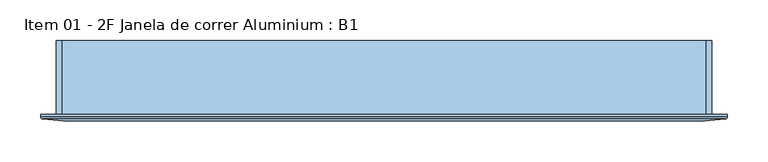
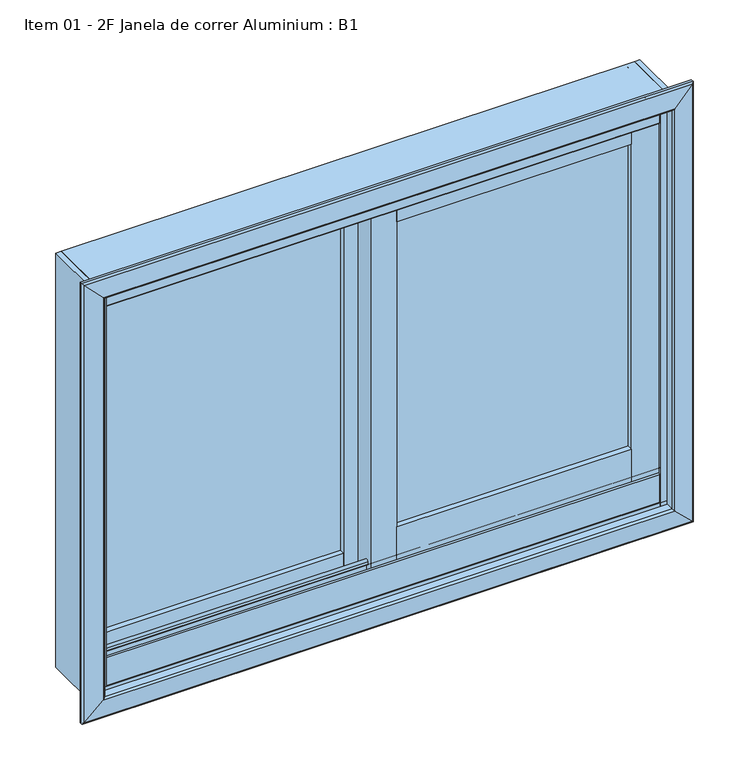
"""IFC4 building model written with IfcOpenShell, lengths in millimetres: window geometry, Item 01 - 2F Janela de correr Aluminium : B1."""

from ifc_helpers import new_model, si_unit, frame, origin, place, context, project, spatial, polyline, circle_curve, ellipse_curve, outline, extrude, source, transform, mapped, element, save
from ifc_brep_helpers import plane_surface, cylinder_surface, revolved_surface, advanced_brep


def item_01_2f_janela_de_correr_aluminium_b1_a633d3a6(model_context):
    return source(origin(), model_context, "Body", "SolidModel", [
        extrude(outline(polyline([(-27.3998339, -10.3), (-27.3998339, -14.3), (-354.750983, -14.3), (-354.750983, -10.3), (-27.3998339, -10.3)])), frame((0.0, 0.0, 857.0), z_axis=(0.0, 0.0, 1.0), x_axis=(1.0, 0.0, 0.0)), (0.0, 0.0, 1.0), 480.5),
        extrude(outline(polyline([(27.2998339, -45.9), (27.2998339, -41.9), (348.868646, -41.9), (348.868646, -45.9), (27.2998339, -45.9)])), frame((0.0, 0.0, 895.5), z_axis=(0.0, 0.0, 1.0), x_axis=(1.0, 0.0, 0.0)), (0.0, 0.0, 1.0), 442.0),
        extrude(outline(polyline([(348.868646, -33.9), (348.868646, -53.9), (27.2998339, -53.9), (27.2998339, -33.9), (348.868646, -33.9)])), frame((0.0, 0.0, 847.9996573), z_axis=(0.0, 0.0, 1.0), x_axis=(1.0, 0.0, 0.0)), (0.0, 0.0, 1.0), 47.5003427),
        extrude(outline(polyline([(348.868646, -33.9), (348.868646, -53.9), (27.2998339, -53.9), (27.2998339, -33.9), (348.868646, -33.9)])), frame((0.0, 0.0, 1337.4996573), z_axis=(0.0, 0.0, 1.0), x_axis=(1.0, 0.0, 0.0)), (0.0, 0.0, 1.0), 34.5),
        extrude(outline(polyline([(-27.3998339, -2.3), (-27.3998339, -22.3), (-354.750983, -22.3), (-354.750983, -2.3), (-27.3998339, -2.3)])), frame((0.0, 0.0, 821.0), z_axis=(0.0, 0.0, 1.0), x_axis=(1.0, 0.0, 0.0)), (0.0, 0.0, 1.0), 36.0),
        extrude(outline(polyline([(-27.3998339, -2.3), (-27.3998339, -22.3), (-354.750983, -22.3), (-354.750983, -2.3), (-27.3998339, -2.3)])), frame((0.0, 0.0, 1337.5), z_axis=(0.0, 0.0, 1.0), x_axis=(1.0, 0.0, 0.0)), (0.0, 0.0, 1.0), 34.5),
        extrude(outline(polyline([(-354.750983, -22.3), (-393.0, -22.3), (-393.0, -2.3), (-354.750983, -2.3), (-354.750983, -22.3)])), frame((0.0, 0.0, 821.0), z_axis=(0.0, 0.0, 1.0), x_axis=(1.0, 0.0, 0.0)), (0.0, 0.0, 1.0), 551.0),
        extrude(outline(polyline([(-27.3998339, -22.3), (-27.3998339, -2.3), (7.6001661, -2.3), (7.6001661, -33.9), (27.2998339, -33.9), (27.2998339, -53.9), (-7.6001661, -53.9), (-7.6001661, -22.3), (-27.3998339, -22.3)])), frame((0.0, 0.0, 821.0), z_axis=(0.0, 0.0, 1.0), x_axis=(1.0, 0.0, 0.0)), (0.0, 0.0, 1.0), 551.0),
        extrude(outline(polyline([(393.0, -53.9), (348.868646, -53.9), (348.868646, -33.9), (393.0, -33.9), (393.0, -53.9)])), frame((0.0, 0.0, 821.0), z_axis=(0.0, 0.0, 1.0), x_axis=(1.0, 0.0, 0.0)), (0.0, 0.0, 1.0), 551.0),
        advanced_brep(
        [(-392.5998339, 8.5620965, 810.2470077), (-392.5998339, 8.5620965, 801.4000436), (-392.5998339, 13.600001, 801.4000436), (-392.5998339, 13.600001, 807.4000364), (-392.5998339, 14.9999993, 807.4000364), (-392.5998339, 15.0, 800.0), (-392.5998339, -75.0, 800.0), (-392.5998339, -75.0, 807.4000364), (-392.5998339, -73.6000017, 807.4000364), (-392.5998339, -73.6000017, 801.3999983), (-392.5998339, -68.6000077, 801.3999983), (-392.5998339, -68.6000077, 815.5000406), (-392.5998339, -66.9001002, 815.5000406), (-392.5998339, -66.9002002, 855.4959852), (-392.5998339, -63.9002108, 855.4999745), (-392.5998339, -63.9002039, 852.9999952), (-392.5998339, -65.5001025, 852.0762974), (-392.5998339, -65.4999102, 840.5017467), (-392.5998339, -64.5522917, 839.4937615), (-392.5998339, -42.5000392, 838.337999), (-392.5998339, -42.5000392, 852.496362), (-392.5998339, -44.7000484, 852.496362), (-392.5998339, -44.7000484, 848.6999865), (-392.5998339, -46.1007067, 848.6999865), (-392.5998339, -46.1007067, 852.4947997), (-392.5998339, -41.099933, 852.4947997), (-392.5998339, -41.099933, 838.2646991), (-392.5998339, -39.464205, 838.1789418), (-392.5998339, -35.731283, 834.861102), (-392.5998339, -32.3590937, 815.7367048), (-392.5998339, -29.9346709, 813.5917613), (-392.5998339, -14.4999651, 812.7828298), (-392.5998339, -14.4999651, 825.4891381), (-392.5998339, -9.4999947, 825.4999956), (-392.5998339, -9.4999711, 821.7000191), (-392.5998339, -10.8999694, 821.7000191), (-392.5998339, -10.8999694, 825.4963945), (-392.5998339, -13.0999825, 825.4963945), (-392.5998339, -13.0999825, 812.7095299), (-392.5998339, 7.2297593, 811.6448774), (392.5998339, 8.5620965, 810.2470077), (392.5998339, 8.5620965, 801.4000436), (392.5998339, 13.600001, 801.4000436), (392.5998339, 13.600001, 807.4000364), (392.5998339, 14.9999993, 807.4000364), (392.5998339, 15.0, 800.0), (392.5998339, -75.0, 800.0), (392.5998339, -75.0, 807.4000364), (392.5998339, -73.6000017, 807.4000364), (392.5998339, -73.6000017, 801.3999983), (392.5998339, -68.6000077, 801.3999983), (392.5998339, -68.6000077, 815.5000406), (392.5998339, -66.9001002, 815.5000406), (392.5998339, -66.9002002, 855.4959852), (392.5998339, -63.9002108, 855.4999745), (392.5998339, -63.9002039, 852.9999952), (392.5998339, -65.5001025, 852.0762974), (392.5998339, -65.4999102, 840.5017467), (392.5998339, -64.5522917, 839.4937615), (392.5998339, -42.5000392, 838.337999), (392.5998339, -42.5000392, 852.496362), (392.5998339, -44.7000484, 852.496362), (392.5998339, -44.7000484, 848.6999865), (392.5998339, -46.1007067, 848.6999865), (392.5998339, -46.1007067, 852.4947997), (392.5998339, -41.099933, 852.4947997), (392.5998339, -41.099933, 838.2646991), (392.5998339, -39.464205, 838.1789418), (392.5998339, -35.731283, 834.861102), (392.5998339, -32.3590937, 815.7367048), (392.5998339, -29.9346709, 813.5917613), (392.5998339, -14.4999651, 812.7828298), (392.5998339, -14.4999651, 825.4891381), (392.5998339, -9.4999947, 825.4999956), (392.5998339, -9.4999711, 821.7000191), (392.5998339, -10.8999694, 821.7000191), (392.5998339, -10.8999694, 825.4963945), (392.5998339, -13.0999825, 825.4963945), (392.5998339, -13.0999825, 812.7095299), (392.5998339, 7.2297593, 811.6448774)],
        [
            (0, 1),
            (1, 2),
            (2, 3),
            (3, 4),
            (4, 5),
            (5, 6),
            (6, 7),
            (7, 8),
            (8, 9),
            (9, 10),
            (10, 11),
            (11, 12),
            (12, 13),
            (13, 14, circle_curve(frame((-392.5998339, -65.4002082, 855.4999743), z_axis=(-1.0, 0.0, 0.0), x_axis=(0.0, 0.0, 1.0)), 1.4999974)),
            (14, 15),
            (15, 16),
            (16, 17),
            (17, 18, circle_curve(frame((-392.5998339, -64.4999552, 840.4923898), z_axis=(1.0, 0.0, 0.0), x_axis=(0.0, 0.0, 1.0)), 0.9999988)),
            (18, 19),
            (19, 20),
            (20, 21, circle_curve(frame((-392.5998339, -43.6000438, 852.496362), z_axis=(1.0, 0.0, 0.0), x_axis=(0.0, 0.0, 1.0)), 1.1000046)),
            (21, 22),
            (22, 23, circle_curve(frame((-392.5998339, -45.4003775, 848.6999865), z_axis=(-1.0, 0.0, 0.0), x_axis=(0.0, 0.0, 1.0)), 0.7003292)),
            (23, 24),
            (24, 25, circle_curve(frame((-392.5998339, -43.6003199, 852.4947997), z_axis=(-1.0, 0.0, 0.0), x_axis=(0.0, 0.0, 1.0)), 2.5003869)),
            (25, 26),
            (26, 27),
            (27, 28, circle_curve(frame((-392.5998339, -39.6736275, 834.1844326), z_axis=(-1.0, 0.0, 0.0), x_axis=(0.0, 0.0, 1.0)), 3.9999952)),
            (28, 29),
            (29, 30, circle_curve(frame((-392.5998339, -29.7985976, 816.188195), z_axis=(1.0, 0.0, 0.0), x_axis=(0.0, 0.0, 1.0)), 2.5999969)),
            (30, 31),
            (31, 32),
            (32, 33, circle_curve(frame((-392.5998339, -11.9999917, 825.4999955), z_axis=(-1.0, 0.0, 0.0), x_axis=(0.0, 0.0, 1.0)), 2.499997)),
            (33, 34),
            (34, 35, circle_curve(frame((-392.5998339, -10.1999703, 821.7000191), z_axis=(-1.0, 0.0, 0.0), x_axis=(0.0, 0.0, 1.0)), 0.6999992)),
            (35, 36),
            (36, 37, circle_curve(frame((-392.5998339, -11.9999759, 825.4963945), z_axis=(1.0, 0.0, 0.0), x_axis=(0.0, 0.0, 1.0)), 1.1000065)),
            (37, 38),
            (38, 39),
            (39, 0, circle_curve(frame((-392.5998339, 7.1626152, 810.2470077), z_axis=(-1.0, 0.0, 0.0), x_axis=(0.0, 0.0, 1.0)), 1.3994814)),
            (0, 40),
            (40, 41),
            (41, 1),
            (41, 42),
            (42, 2),
            (42, 43),
            (43, 3),
            (43, 44),
            (44, 4),
            (44, 45),
            (45, 5),
            (45, 46),
            (46, 6),
            (46, 47),
            (47, 7),
            (47, 48),
            (48, 8),
            (48, 49),
            (49, 9),
            (49, 50),
            (50, 10),
            (50, 51),
            (51, 11),
            (51, 52),
            (52, 12),
            (52, 53),
            (53, 13),
            (53, 54, circle_curve(frame((392.5998339, -65.4002082, 855.4999743), z_axis=(-1.0, 0.0, 0.0), x_axis=(0.0, 0.0, 1.0)), 1.4999974)),
            (54, 14),
            (54, 55),
            (55, 15),
            (55, 56),
            (56, 16),
            (56, 57),
            (57, 17),
            (57, 58, circle_curve(frame((392.5998339, -64.4999552, 840.4923898), z_axis=(1.0, 0.0, 0.0), x_axis=(0.0, 0.0, 1.0)), 0.9999988)),
            (58, 18),
            (58, 59),
            (59, 19),
            (59, 60),
            (60, 20),
            (60, 61, circle_curve(frame((392.5998339, -43.6000438, 852.496362), z_axis=(1.0, 0.0, 0.0), x_axis=(0.0, 0.0, 1.0)), 1.1000046)),
            (61, 21),
            (61, 62),
            (62, 22),
            (62, 63, circle_curve(frame((392.5998339, -45.4003775, 848.6999865), z_axis=(-1.0, 0.0, 0.0), x_axis=(0.0, 0.0, 1.0)), 0.7003292)),
            (63, 23),
            (63, 64),
            (64, 24),
            (64, 65, circle_curve(frame((392.5998339, -43.6003199, 852.4947997), z_axis=(-1.0, 0.0, 0.0), x_axis=(0.0, 0.0, 1.0)), 2.5003869)),
            (65, 25),
            (65, 66),
            (66, 26),
            (66, 67),
            (67, 27),
            (67, 68, circle_curve(frame((392.5998339, -39.6736275, 834.1844326), z_axis=(-1.0, 0.0, 0.0), x_axis=(0.0, 0.0, 1.0)), 3.9999952)),
            (68, 28),
            (68, 69),
            (69, 29),
            (69, 70, circle_curve(frame((392.5998339, -29.7985976, 816.188195), z_axis=(1.0, 0.0, 0.0), x_axis=(0.0, 0.0, 1.0)), 2.5999969)),
            (70, 30),
            (70, 71),
            (71, 31),
            (71, 72),
            (72, 32),
            (72, 73, circle_curve(frame((392.5998339, -11.9999917, 825.4999955), z_axis=(-1.0, 0.0, 0.0), x_axis=(0.0, 0.0, 1.0)), 2.499997)),
            (73, 33),
            (73, 74),
            (74, 34),
            (74, 75, circle_curve(frame((392.5998339, -10.1999703, 821.7000191), z_axis=(-1.0, 0.0, 0.0), x_axis=(0.0, 0.0, 1.0)), 0.6999992)),
            (75, 35),
            (75, 76),
            (76, 36),
            (76, 77, circle_curve(frame((392.5998339, -11.9999759, 825.4963945), z_axis=(1.0, 0.0, 0.0), x_axis=(0.0, 0.0, 1.0)), 1.1000065)),
            (77, 37),
            (77, 78),
            (78, 38),
            (78, 79),
            (79, 39),
            (79, 40, circle_curve(frame((392.5998339, 7.1626152, 810.2470077), z_axis=(-1.0, 0.0, 0.0), x_axis=(0.0, 0.0, 1.0)), 1.3994814)),
        ],
        [
            plane_surface(frame((-392.5998339, -75.0, 1400.0), z_axis=(-1.0, 0.0, 0.0), x_axis=(0.0, -1.0, 0.0))),
            plane_surface(frame((-392.5998339, 8.5620965, 810.2470077), z_axis=(0.0, 1.0, 0.0), x_axis=(1.0, 0.0, 0.0))),
            plane_surface(frame((-392.5998339, 8.5620965, 801.4000436), z_axis=(0.0, 0.0, 1.0), x_axis=(1.0, 0.0, 0.0))),
            plane_surface(frame((-392.5998339, 13.600001, 801.4000436), z_axis=(0.0, -1.0, 0.0), x_axis=(1.0, 0.0, 0.0))),
            plane_surface(frame((-392.5998339, 13.600001, 807.4000364), z_axis=(0.0, 0.0, 1.0), x_axis=(1.0, 0.0, 0.0))),
            plane_surface(frame((-392.5998339, 14.9999993, 807.4000364), z_axis=(0.0, 0.999999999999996, 9.01305508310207e-08), x_axis=(1.0, 0.0, 0.0))),
            plane_surface(frame((-392.5998339, 15.0, 800.0), z_axis=(0.0, 0.0, -1.0), x_axis=(1.0, 0.0, 0.0))),
            plane_surface(frame((-392.5998339, -75.0, 800.0), z_axis=(0.0, -1.0, 0.0), x_axis=(1.0, 0.0, 0.0))),
            plane_surface(frame((-392.5998339, -75.0, 807.4000364), z_axis=(0.0, 0.0, 1.0), x_axis=(1.0, 0.0, 0.0))),
            plane_surface(frame((-392.5998339, -73.6000017, 807.4000364), z_axis=(0.0, 1.0, 0.0), x_axis=(1.0, 0.0, 0.0))),
            plane_surface(frame((-392.5998339, -73.6000017, 801.3999983), z_axis=(0.0, 0.0, 1.0), x_axis=(1.0, 0.0, 0.0))),
            plane_surface(frame((-392.5998339, -68.6000077, 801.3999983), z_axis=(0.0, -1.0, 0.0), x_axis=(1.0, 0.0, 0.0))),
            plane_surface(frame((-392.5998339, -68.6000077, 815.5000406), z_axis=(0.0, 0.0, 1.0), x_axis=(1.0, 0.0, 0.0))),
            plane_surface(frame((-392.5998339, -66.9001002, 815.5000406), z_axis=(0.0, -0.999999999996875, -2.500000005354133e-06), x_axis=(1.0, 0.0, 0.0))),
            cylinder_surface(frame((-392.5998339, -65.4002082, 855.4999743), z_axis=(-1.0, 0.0, 0.0), x_axis=(0.0, 0.0, 1.0)), 1.4999974),
            plane_surface(frame((-392.5998339, -63.9002039, 855.4999927), z_axis=(0.0, 1.0, 0.0), x_axis=(1.0, 0.0, 0.0))),
            plane_surface(frame((-392.5998339, -63.9002039, 852.9999952), z_axis=(0.0, 0.4999983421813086, -0.8660263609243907), x_axis=(1.0, 0.0, 0.0))),
            plane_surface(frame((-392.5998339, -65.5001025, 852.0762974), z_axis=(0.0, 0.9999999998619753, 1.661473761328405e-05), x_axis=(1.0, 0.0, 0.0))),
            revolved_surface(polyline([(392.5998339, -64.4999552, 841.4923885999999), (-392.5998339, -64.4999552, 841.4923885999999)]), (-392.5998339, -64.4999552, 840.4923898), (1.0, 0.0, 0.0)),
            plane_surface(frame((-392.5998339, -64.5523119, 839.493712), z_axis=(0.0, 0.05233606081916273, 0.998629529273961), x_axis=(1.0, 0.0, 0.0))),
            plane_surface(frame((-392.5998339, -42.5000392, 838.337999), z_axis=(0.0, -1.0, 0.0), x_axis=(1.0, 0.0, 0.0))),
            revolved_surface(polyline([(392.5998339, -43.6000438, 853.5963666), (-392.5998339, -43.6000438, 853.5963666)]), (-392.5998339, -43.6000438, 852.496362), (1.0, 0.0, 0.0)),
            plane_surface(frame((-392.5998339, -44.7000484, 852.496362), z_axis=(0.0, 1.0, 0.0), x_axis=(1.0, 0.0, 0.0))),
            cylinder_surface(frame((-392.5998339, -45.4003775, 848.6999865), z_axis=(-1.0, 0.0, 0.0), x_axis=(0.0, 0.0, 1.0)), 0.7003292),
            plane_surface(frame((-392.5998339, -46.1007067, 848.6999865), z_axis=(0.0, -1.0, 0.0), x_axis=(1.0, 0.0, 0.0))),
            cylinder_surface(frame((-392.5998339, -43.6003199, 852.4947997), z_axis=(-1.0, 0.0, 0.0), x_axis=(0.0, 0.0, 1.0)), 2.5003869),
            plane_surface(frame((-392.5998339, -41.099933, 852.4947997), z_axis=(0.0, 1.0, 0.0), x_axis=(1.0, 0.0, 0.0))),
            plane_surface(frame((-392.5998339, -41.099933, 838.2646991), z_axis=(0.0, 0.05235569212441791, 0.998628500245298), x_axis=(1.0, 0.0, 0.0))),
            cylinder_surface(frame((-392.5998339, -39.6736275, 834.1844326), z_axis=(-1.0, 0.0, 0.0), x_axis=(0.0, 0.0, 1.0)), 3.9999952),
            plane_surface(frame((-392.5998339, -35.731283, 834.861102), z_axis=(0.0, 0.9848073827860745, 0.1736502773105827), x_axis=(1.0, 0.0, 0.0))),
            revolved_surface(polyline([(392.5998339, -29.7985976, 818.7881918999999), (-392.5998339, -29.7985976, 818.7881918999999)]), (-392.5998339, -29.7985976, 816.188195), (1.0, 0.0, 0.0)),
            plane_surface(frame((-392.5998339, -29.9346464, 813.5917288), z_axis=(0.0, 0.052336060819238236, 0.9986295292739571), x_axis=(1.0, 0.0, 0.0))),
            plane_surface(frame((-392.5998339, -14.4999651, 812.7828298), z_axis=(0.0, -1.0, 0.0), x_axis=(1.0, 0.0, 0.0))),
            cylinder_surface(frame((-392.5998339, -11.9999917, 825.4999955), z_axis=(-1.0, 0.0, 0.0), x_axis=(0.0, 0.0, 1.0)), 2.499997),
            plane_surface(frame((-392.5998339, -9.4999711, 825.5000145), z_axis=(0.0, 1.0, 0.0), x_axis=(1.0, 0.0, 0.0))),
            cylinder_surface(frame((-392.5998339, -10.1999703, 821.7000191), z_axis=(-1.0, 0.0, 0.0), x_axis=(0.0, 0.0, 1.0)), 0.6999992),
            plane_surface(frame((-392.5998339, -10.8999694, 821.7000191), z_axis=(0.0, -1.0, 0.0), x_axis=(1.0, 0.0, 0.0))),
            revolved_surface(polyline([(392.5998339, -11.9999759, 826.5964009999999), (-392.5998339, -11.9999759, 826.5964009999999)]), (-392.5998339, -11.9999759, 825.4963945), (1.0, 0.0, 0.0)),
            plane_surface(frame((-392.5998339, -13.0999825, 825.4963945), z_axis=(0.0, 1.0, 0.0), x_axis=(1.0, 0.0, 0.0))),
            plane_surface(frame((-392.5998339, -13.0999825, 812.7095299), z_axis=(0.0, 0.052297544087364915, 0.9986315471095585), x_axis=(1.0, 0.0, 0.0))),
            cylinder_surface(frame((-392.5998339, 7.1626152, 810.2470077), z_axis=(-1.0, 0.0, 0.0), x_axis=(0.0, 0.0, 1.0)), 1.3994814),
            plane_surface(frame((392.5998339, -75.0, 1400.0), z_axis=(1.0, 0.0, 0.0), x_axis=(0.0, -1.0, 0.0))),
        ],
        [
            (0, [[1, 2, 3, 4, 5, 6, 7, 8, 9, 10, 11, 12, 13, 14, 15, 16, 17, 18, 19, 20, 21, 22, 23, 24, 25, 26, 27, 28, 29, 30, 31, 32, 33, 34, 35, 36, 37, 38, 39, 40]]),
            (1, [[-1, 41, 42, 43]]),
            (2, [[-2, -43, 44, 45]]),
            (3, [[-3, -45, 46, 47]]),
            (4, [[-4, -47, 48, 49]]),
            (5, [[-5, -49, 50, 51]]),
            (6, [[-6, -51, 52, 53]]),
            (7, [[-7, -53, 54, 55]]),
            (8, [[-8, -55, 56, 57]]),
            (9, [[-9, -57, 58, 59]]),
            (10, [[-10, -59, 60, 61]]),
            (11, [[-11, -61, 62, 63]]),
            (12, [[-12, -63, 64, 65]]),
            (13, [[-13, -65, 66, 67]]),
            (14, [[-14, -67, 68, 69]]),
            (15, [[-15, -69, 70, 71]]),
            (16, [[-16, -71, 72, 73]]),
            (17, [[-17, -73, 74, 75]]),
            (18, [[-18, -75, 76, 77]]),
            (19, [[-19, -77, 78, 79]]),
            (20, [[-20, -79, 80, 81]]),
            (21, [[-21, -81, 82, 83]]),
            (22, [[-22, -83, 84, 85]]),
            (23, [[-23, -85, 86, 87]]),
            (24, [[-24, -87, 88, 89]]),
            (25, [[-25, -89, 90, 91]]),
            (26, [[-26, -91, 92, 93]]),
            (27, [[-27, -93, 94, 95]]),
            (28, [[-28, -95, 96, 97]]),
            (29, [[-29, -97, 98, 99]]),
            (30, [[-30, -99, 100, 101]]),
            (31, [[-31, -101, 102, 103]]),
            (32, [[-32, -103, 104, 105]]),
            (33, [[-33, -105, 106, 107]]),
            (34, [[-34, -107, 108, 109]]),
            (35, [[-35, -109, 110, 111]]),
            (36, [[-36, -111, 112, 113]]),
            (37, [[-37, -113, 114, 115]]),
            (38, [[-38, -115, 116, 117]]),
            (39, [[-39, -117, 118, 119]]),
            (40, [[-40, -119, 120, -41]]),
            (41, [[-120, -118, -116, -114, -112, -110, -108, -106, -104, -102, -100, -98, -96, -94, -92, -90, -88, -86, -84, -82, -80, -78, -76, -74, -72, -70, -68, -66, -64, -62, -60, -58, -56, -54, -52, -50, -48, -46, -44, -42]]),
        ],
    ),
        advanced_brep(
        [(-392.5998339, -66.8990741, 1365.5), (-392.5998339, -66.8990741, 1384.5), (-392.5998339, -68.5994745, 1384.5), (-392.5998339, -68.5994745, 1398.6), (-392.5998339, -73.5994745, 1398.6), (-392.5998339, -73.5994745, 1392.6), (-392.5998339, -74.9994395, 1392.6), (-392.5998339, -74.9994395, 1400.0), (-392.5998339, 15.0005605, 1400.0), (-392.5998339, 15.0005605, 1392.6), (-392.5998339, 13.6005455, 1392.6), (-392.5998339, 13.6005455, 1398.6), (-392.5998339, 8.6005455, 1398.6), (-392.5998339, 8.6005455, 1384.5), (-392.5998339, 6.9005605, 1384.5), (-392.5998339, 6.9005605, 1361.0), (-392.5998339, 5.5005605, 1360.0834849), (-392.5998339, 5.5005605, 1384.5), (-392.5998339, -13.0994395, 1384.5), (-392.5998339, -13.0994395, 1366.4999475), (-392.5998339, -10.8994395, 1366.4999475), (-392.5998339, -10.8994395, 1370.298754), (-392.5998339, -9.4986209, 1370.298754), (-392.5998339, -9.4986209, 1366.4999475), (-392.5998339, -14.5002581, 1366.4999475), (-392.5998339, -14.5002581, 1384.5), (-392.5998339, -41.0986209, 1384.5), (-392.5998339, -41.0986209, 1366.499981), (-392.5998339, -46.1002581, 1366.499981), (-392.5998339, -46.1002581, 1370.2997289), (-392.5998339, -44.6994395, 1370.2997289), (-392.5998339, -44.6994395, 1366.499981), (-392.5998339, -42.4994395, 1366.499981), (-392.5998339, -42.4994395, 1384.5), (-392.5998339, -65.4994049, 1384.5), (-392.5998339, -65.4994049, 1368.9237013), (-392.5998339, -63.8998049, 1368.0002013), (-392.5998339, -63.8998049, 1365.5), (392.5998339, -66.8990741, 1365.5), (392.5998339, -63.8998049, 1365.5), (392.5998339, -63.8998049, 1368.0002013), (392.5998339, -65.4994049, 1368.9237013), (392.5998339, -65.4994049, 1384.5), (392.5998339, -42.4994395, 1384.5), (392.5998339, -42.4994395, 1366.499981), (392.5998339, -44.6994395, 1366.499981), (392.5998339, -44.6994395, 1370.2997289), (392.5998339, -46.1002581, 1370.2997289), (392.5998339, -46.1002581, 1366.499981), (392.5998339, -41.0986209, 1366.499981), (392.5998339, -41.0986209, 1384.5), (392.5998339, -14.5002581, 1384.5), (392.5998339, -14.5002581, 1366.4999475), (392.5998339, -9.4986209, 1366.4999475), (392.5998339, -9.4986209, 1370.298754), (392.5998339, -10.8994395, 1370.298754), (392.5998339, -10.8994395, 1366.4999475), (392.5998339, -13.0994395, 1366.4999475), (392.5998339, -13.0994395, 1384.5), (392.5998339, 5.5005605, 1384.5), (392.5998339, 5.5005605, 1360.0834849), (392.5998339, 6.9005605, 1361.0), (392.5998339, 6.9005605, 1384.5), (392.5998339, 8.6005455, 1384.5), (392.5998339, 8.6005455, 1398.6), (392.5998339, 13.6005455, 1398.6), (392.5998339, 13.6005455, 1392.6), (392.5998339, 15.0005605, 1392.6), (392.5998339, 15.0005605, 1400.0), (392.5998339, -74.9994395, 1400.0), (392.5998339, -74.9994395, 1392.6), (392.5998339, -73.5994745, 1392.6), (392.5998339, -73.5994745, 1398.6), (392.5998339, -68.5994745, 1398.6), (392.5998339, -68.5994745, 1384.5), (392.5998339, -66.8990741, 1384.5)],
        [
            (0, 1),
            (1, 2),
            (2, 3),
            (3, 4),
            (4, 5),
            (5, 6),
            (6, 7),
            (7, 8),
            (8, 9),
            (9, 10),
            (10, 11),
            (11, 12),
            (12, 13),
            (13, 14),
            (14, 15),
            (15, 16, circle_curve(frame((-392.5998339, 5.9005605, 1361.0), z_axis=(-1.0, 0.0, 0.0), x_axis=(0.0, 0.0, 1.0)), 1.0)),
            (16, 17),
            (17, 18),
            (18, 19),
            (19, 20, circle_curve(frame((-392.5998339, -11.9994395, 1366.4999475), z_axis=(1.0, 0.0, 0.0), x_axis=(0.0, 0.0, 1.0)), 1.1)),
            (20, 21),
            (21, 22, circle_curve(frame((-392.5998339, -10.1990302, 1370.298754), z_axis=(-1.0, 0.0, 0.0), x_axis=(0.0, 0.0, 1.0)), 0.7004093)),
            (22, 23),
            (23, 24, circle_curve(frame((-392.5998339, -11.9994395, 1366.4999475), z_axis=(-1.0, 0.0, 0.0), x_axis=(0.0, 0.0, 1.0)), 2.5008186)),
            (24, 25),
            (25, 26),
            (26, 27),
            (27, 28, circle_curve(frame((-392.5998339, -43.5994395, 1366.499981), z_axis=(-1.0, 0.0, 0.0), x_axis=(0.0, 0.0, 1.0)), 2.5008186)),
            (28, 29),
            (29, 30, circle_curve(frame((-392.5998339, -45.3998488, 1370.2997289), z_axis=(-1.0, 0.0, 0.0), x_axis=(0.0, 0.0, 1.0)), 0.7004093)),
            (30, 31),
            (31, 32, circle_curve(frame((-392.5998339, -43.5994395, 1366.499981), z_axis=(1.0, 0.0, 0.0), x_axis=(0.0, 0.0, 1.0)), 1.1)),
            (32, 33),
            (33, 34),
            (34, 35),
            (35, 36),
            (36, 37),
            (37, 0, circle_curve(frame((-392.5998339, -65.3994395, 1365.5), z_axis=(-1.0, 0.0, 0.0), x_axis=(0.0, 0.0, 1.0)), 1.4996346)),
            (38, 39, circle_curve(frame((392.5998339, -65.3994395, 1365.5), z_axis=(1.0, 0.0, 0.0), x_axis=(0.0, 0.0, 1.0)), 1.4996346)),
            (39, 40),
            (40, 41),
            (41, 42),
            (42, 43),
            (43, 44),
            (44, 45, circle_curve(frame((392.5998339, -43.5994395, 1366.499981), z_axis=(-1.0, 0.0, 0.0), x_axis=(0.0, 0.0, 1.0)), 1.1)),
            (45, 46),
            (46, 47, circle_curve(frame((392.5998339, -45.3998488, 1370.2997289), z_axis=(1.0, 0.0, 0.0), x_axis=(0.0, 0.0, 1.0)), 0.7004093)),
            (47, 48),
            (48, 49, circle_curve(frame((392.5998339, -43.5994395, 1366.499981), z_axis=(1.0, 0.0, 0.0), x_axis=(0.0, 0.0, 1.0)), 2.5008186)),
            (49, 50),
            (50, 51),
            (51, 52),
            (52, 53, circle_curve(frame((392.5998339, -11.9994395, 1366.4999475), z_axis=(1.0, 0.0, 0.0), x_axis=(0.0, 0.0, 1.0)), 2.5008186)),
            (53, 54),
            (54, 55, circle_curve(frame((392.5998339, -10.1990302, 1370.298754), z_axis=(1.0, 0.0, 0.0), x_axis=(0.0, 0.0, 1.0)), 0.7004093)),
            (55, 56),
            (56, 57, circle_curve(frame((392.5998339, -11.9994395, 1366.4999475), z_axis=(-1.0, 0.0, 0.0), x_axis=(0.0, 0.0, 1.0)), 1.1)),
            (57, 58),
            (58, 59),
            (59, 60),
            (60, 61, circle_curve(frame((392.5998339, 5.9005605, 1361.0), z_axis=(1.0, 0.0, 0.0), x_axis=(0.0, 0.0, 1.0)), 1.0)),
            (61, 62),
            (62, 63),
            (63, 64),
            (64, 65),
            (65, 66),
            (66, 67),
            (67, 68),
            (68, 69),
            (69, 70),
            (70, 71),
            (71, 72),
            (72, 73),
            (73, 74),
            (74, 75),
            (75, 38),
            (0, 38),
            (75, 1),
            (74, 2),
            (73, 3),
            (72, 4),
            (71, 5),
            (70, 6),
            (69, 7),
            (68, 8),
            (67, 9),
            (66, 10),
            (65, 11),
            (64, 12),
            (63, 13),
            (62, 14),
            (61, 15),
            (60, 16),
            (59, 17),
            (58, 18),
            (57, 19),
            (56, 20),
            (55, 21),
            (54, 22),
            (53, 23),
            (52, 24),
            (51, 25),
            (50, 26),
            (49, 27),
            (48, 28),
            (47, 29),
            (46, 30),
            (45, 31),
            (44, 32),
            (43, 33),
            (42, 34),
            (41, 35),
            (40, 36),
            (39, 37),
        ],
        [
            plane_surface(frame((-392.5998339, -75.0, 1400.0), z_axis=(-1.0, 0.0, 0.0), x_axis=(0.0, -1.0, 0.0))),
            plane_surface(frame((392.5998339, -75.0, 1400.0), z_axis=(1.0, 0.0, 0.0), x_axis=(0.0, -1.0, 0.0))),
            plane_surface(frame((-392.5998339, -66.8990741, 1365.5), z_axis=(0.0, -1.0, 0.0), x_axis=(1.0, 0.0, 0.0))),
            plane_surface(frame((-392.5998339, -66.8990741, 1384.5), z_axis=(0.0, 0.0, -1.0), x_axis=(1.0, 0.0, 0.0))),
            plane_surface(frame((-392.5998339, -68.5994745, 1384.5), z_axis=(0.0, -1.0, 0.0), x_axis=(1.0, 0.0, 0.0))),
            plane_surface(frame((-392.5998339, -68.5994745, 1398.6), z_axis=(0.0, 0.0, -1.0), x_axis=(1.0, 0.0, 0.0))),
            plane_surface(frame((-392.5998339, -73.5994745, 1398.6), z_axis=(0.0, 1.0, 0.0), x_axis=(1.0, 0.0, 0.0))),
            plane_surface(frame((-392.5998339, -73.5994745, 1392.6), z_axis=(0.0, 0.0, -1.0), x_axis=(1.0, 0.0, 0.0))),
            plane_surface(frame((-392.5998339, -74.9994395, 1392.6), z_axis=(0.0, -1.0, 0.0), x_axis=(1.0, 0.0, 0.0))),
            plane_surface(frame((-392.5998339, -74.9994395, 1400.0), z_axis=(0.0, 0.0, 1.0), x_axis=(1.0, 0.0, 0.0))),
            plane_surface(frame((-392.5998339, 15.0005605, 1400.0), z_axis=(0.0, 1.0, 0.0), x_axis=(1.0, 0.0, 0.0))),
            plane_surface(frame((-392.5998339, 15.0005605, 1392.6), z_axis=(0.0, 0.0, -1.0), x_axis=(1.0, 0.0, 0.0))),
            plane_surface(frame((-392.5998339, 13.6005455, 1392.6), z_axis=(0.0, -1.0, 0.0), x_axis=(1.0, 0.0, 0.0))),
            plane_surface(frame((-392.5998339, 13.6005455, 1398.6), z_axis=(0.0, 0.0, -1.0), x_axis=(1.0, 0.0, 0.0))),
            plane_surface(frame((-392.5998339, 8.6005455, 1398.6), z_axis=(0.0, 1.0, 0.0), x_axis=(1.0, 0.0, 0.0))),
            plane_surface(frame((-392.5998339, 8.6005455, 1384.5), z_axis=(0.0, 0.0, -1.0), x_axis=(1.0, 0.0, 0.0))),
            plane_surface(frame((-392.5998339, 6.9005605, 1384.5), z_axis=(0.0, 1.0, 0.0), x_axis=(1.0, 0.0, 0.0))),
            cylinder_surface(frame((-392.5998339, 5.9005605, 1361.0), z_axis=(-1.0, 0.0, 0.0), x_axis=(0.0, 0.0, 1.0)), 1.0),
            plane_surface(frame((-392.5998339, 5.5005605, 1360.0834849), z_axis=(0.0, -1.0, 0.0), x_axis=(1.0, 0.0, 0.0))),
            plane_surface(frame((-392.5998339, 5.5005605, 1384.5), z_axis=(0.0, 0.0, -1.0), x_axis=(1.0, 0.0, 0.0))),
            plane_surface(frame((-392.5998339, -13.0994395, 1384.5), z_axis=(0.0, 1.0, 0.0), x_axis=(1.0, 0.0, 0.0))),
            revolved_surface(polyline([(392.5998339, -11.9994395, 1367.5999474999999), (-392.5998339, -11.9994395, 1367.5999474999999)]), (-392.5998339, -11.9994395, 1366.4999475), (1.0, 0.0, 0.0)),
            plane_surface(frame((-392.5998339, -10.8994395, 1366.4999475), z_axis=(0.0, -1.0, 0.0), x_axis=(1.0, 0.0, 0.0))),
            cylinder_surface(frame((-392.5998339, -10.1990302, 1370.298754), z_axis=(-1.0, 0.0, 0.0), x_axis=(0.0, 0.0, 1.0)), 0.7004093),
            plane_surface(frame((-392.5998339, -9.4986209, 1370.298754), z_axis=(0.0, 1.0, 0.0), x_axis=(1.0, 0.0, 0.0))),
            cylinder_surface(frame((-392.5998339, -11.9994395, 1366.4999475), z_axis=(-1.0, 0.0, 0.0), x_axis=(0.0, 0.0, 1.0)), 2.5008186),
            plane_surface(frame((-392.5998339, -14.5002581, 1366.4999475), z_axis=(0.0, -1.0, 0.0), x_axis=(1.0, 0.0, 0.0))),
            plane_surface(frame((-392.5998339, -14.5002581, 1384.5), z_axis=(0.0, 0.0, -1.0), x_axis=(1.0, 0.0, 0.0))),
            plane_surface(frame((-392.5998339, -41.0986209, 1384.5), z_axis=(0.0, 1.0, 0.0), x_axis=(1.0, 0.0, 0.0))),
            cylinder_surface(frame((-392.5998339, -43.5994395, 1366.499981), z_axis=(-1.0, 0.0, 0.0), x_axis=(0.0, 0.0, 1.0)), 2.5008186),
            plane_surface(frame((-392.5998339, -46.1002581, 1366.499981), z_axis=(0.0, -1.0, 0.0), x_axis=(1.0, 0.0, 0.0))),
            cylinder_surface(frame((-392.5998339, -45.3998488, 1370.2997289), z_axis=(-1.0, 0.0, 0.0), x_axis=(0.0, 0.0, 1.0)), 0.7004093),
            plane_surface(frame((-392.5998339, -44.6994395, 1370.2997289), z_axis=(0.0, 1.0, 0.0), x_axis=(1.0, 0.0, 0.0))),
            revolved_surface(polyline([(392.5998339, -43.5994395, 1367.5999809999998), (-392.5998339, -43.5994395, 1367.5999809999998)]), (-392.5998339, -43.5994395, 1366.499981), (1.0, 0.0, 0.0)),
            plane_surface(frame((-392.5998339, -42.4994395, 1366.499981), z_axis=(0.0, -1.0, 0.0), x_axis=(1.0, 0.0, 0.0))),
            plane_surface(frame((-392.5998339, -42.4994395, 1384.5), z_axis=(0.0, 0.0, -1.0), x_axis=(1.0, 0.0, 0.0))),
            plane_surface(frame((-392.5998339, -65.4994049, 1384.5), z_axis=(0.0, 1.0, 0.0), x_axis=(1.0, 0.0, 0.0))),
            plane_surface(frame((-392.5998339, -65.4994049, 1368.9237013), z_axis=(0.0, 0.49998802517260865, 0.8660323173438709), x_axis=(1.0, 0.0, 0.0))),
            plane_surface(frame((-392.5998339, -63.8998049, 1368.0002013), z_axis=(0.0, 1.0, 0.0), x_axis=(1.0, 0.0, 0.0))),
            cylinder_surface(frame((-392.5998339, -65.3994395, 1365.5), z_axis=(-1.0, 0.0, 0.0), x_axis=(0.0, 0.0, 1.0)), 1.4996346),
        ],
        [
            (0, [[1, 2, 3, 4, 5, 6, 7, 8, 9, 10, 11, 12, 13, 14, 15, 16, 17, 18, 19, 20, 21, 22, 23, 24, 25, 26, 27, 28, 29, 30, 31, 32, 33, 34, 35, 36, 37, 38]]),
            (1, [[39, 40, 41, 42, 43, 44, 45, 46, 47, 48, 49, 50, 51, 52, 53, 54, 55, 56, 57, 58, 59, 60, 61, 62, 63, 64, 65, 66, 67, 68, 69, 70, 71, 72, 73, 74, 75, 76]]),
            (2, [[-1, 77, -76, 78]]),
            (3, [[-2, -78, -75, 79]]),
            (4, [[-3, -79, -74, 80]]),
            (5, [[-4, -80, -73, 81]]),
            (6, [[-5, -81, -72, 82]]),
            (7, [[-6, -82, -71, 83]]),
            (8, [[-7, -83, -70, 84]]),
            (9, [[-8, -84, -69, 85]]),
            (10, [[-9, -85, -68, 86]]),
            (11, [[-10, -86, -67, 87]]),
            (12, [[-11, -87, -66, 88]]),
            (13, [[-12, -88, -65, 89]]),
            (14, [[-13, -89, -64, 90]]),
            (15, [[-14, -90, -63, 91]]),
            (16, [[-15, -91, -62, 92]]),
            (17, [[-16, -92, -61, 93]]),
            (18, [[-17, -93, -60, 94]]),
            (19, [[-18, -94, -59, 95]]),
            (20, [[-19, -95, -58, 96]]),
            (21, [[-20, -96, -57, 97]]),
            (22, [[-21, -97, -56, 98]]),
            (23, [[-22, -98, -55, 99]]),
            (24, [[-23, -99, -54, 100]]),
            (25, [[-24, -100, -53, 101]]),
            (26, [[-25, -101, -52, 102]]),
            (27, [[-26, -102, -51, 103]]),
            (28, [[-27, -103, -50, 104]]),
            (29, [[-28, -104, -49, 105]]),
            (30, [[-29, -105, -48, 106]]),
            (31, [[-30, -106, -47, 107]]),
            (32, [[-31, -107, -46, 108]]),
            (33, [[-32, -108, -45, 109]]),
            (34, [[-33, -109, -44, 110]]),
            (35, [[-34, -110, -43, 111]]),
            (36, [[-35, -111, -42, 112]]),
            (37, [[-36, -112, -41, 113]]),
            (38, [[-37, -113, -40, 114]]),
            (39, [[-38, -114, -39, -77]]),
        ],
    ),
        extrude(outline(polyline([(-400.0, -75.0), (-400.0, 15.0005605), (-392.5998339, 15.0005605), (-392.5998339, 8.6005605), (-379.5998339, 8.6005605), (-379.5998339, 7.2005603), (-392.5998339, 7.2005603), (-392.5998339, -67.1994395), (-379.5998339, -67.1994395), (-379.5998339, -68.5994395), (-392.5998339, -68.5994395), (-392.5998339, -75.0), (-400.0, -75.0)])), frame((0.0, 0.0, 800.0), z_axis=(0.0, 0.0, 1.0), x_axis=(1.0, 0.0, 0.0)), (0.0, 0.0, 1.0), 600.0),
        extrude(outline(polyline([(400.0, -75.0), (392.5998339, -75.0), (392.5998339, -68.5994395), (379.5998339, -68.5994395), (379.5998339, -67.1994395), (392.5998339, -67.1994395), (392.5998339, 7.2005603), (379.5998339, 7.2005603), (379.5998339, 8.6005605), (392.5998339, 8.6005605), (392.5998339, 15.0005605), (400.0, 15.0005605), (400.0, -75.0)])), frame((0.0, 0.0, 800.0), z_axis=(0.0, 0.0, 1.0), x_axis=(1.0, 0.0, 0.0)), (0.0, 0.0, 1.0), 600.0),
        advanced_brep(
        [(416.6179787, -80.8032791, 783.3820213), (391.6179953, -82.990685, 808.3820047), (-391.6179953, -82.990685, 808.3820047), (-416.6179787, -80.8032791, 783.3820213), (418.9000454, -78.301595, 781.0999546), (-418.9000454, -78.301595, 781.0999546), (418.9000454, -75.0, 781.0999546), (-418.9000454, -75.0, 781.0999546), (417.8000705, -78.312794, 782.1999295), (417.8000705, -75.0, 782.1999295), (-417.8000705, -75.0, 782.1999295), (-417.8000705, -78.312794, 782.1999295), (416.5220991, -79.7074657, 783.4779009), (-416.5220991, -79.7074657, 783.4779009), (391.5051608, -81.896355, 808.4948392), (-391.5051608, -81.896355, 808.4948392), (390.0000742, -80.5100572, 809.9999258), (-390.0000742, -80.5100572, 809.9999258), (390.0000742, -69.0002188, 809.9999258), (-390.0000742, -69.0002188, 809.9999258), (388.9000871, -80.5001999, 811.0999129), (388.9000871, -69.0002188, 811.0999129), (-388.9000871, -69.0002188, 811.0999129), (-388.9000871, -80.5001999, 811.0999129), (-391.6179953, -82.990685, 1391.6179953), (-416.6179787, -80.8032791, 1416.6179787), (-418.9000454, -78.301595, 1418.9000454), (-418.9000454, -75.0, 1418.9000454), (-417.8000705, -75.0, 1417.8000705), (-417.8000705, -78.312794, 1417.8000705), (-416.5220991, -79.7074657, 1416.5220991), (-391.5051608, -81.896355, 1391.5051608), (-390.0000742, -80.5100572, 1390.0000742), (-390.0000742, -69.0002188, 1390.0000742), (-388.9000871, -69.0002188, 1388.9000871), (-388.9000871, -80.5001999, 1388.9000871), (391.6179953, -82.990685, 1391.6179953), (416.6179787, -80.8032791, 1416.6179787), (418.9000454, -78.301595, 1418.9000454), (418.9000454, -75.0, 1418.9000454), (417.8000705, -75.0, 1417.8000705), (417.8000705, -78.312794, 1417.8000705), (416.5220991, -79.7074657, 1416.5220991), (391.5051608, -81.896355, 1391.5051608), (390.0000742, -80.5100572, 1390.0000742), (390.0000742, -69.0002188, 1390.0000742), (388.9000871, -69.0002188, 1388.9000871), (388.9000871, -80.5001999, 1388.9000871)],
        [
            (0, 1),
            (1, 2),
            (2, 3),
            (3, 0),
            (4, 0, ellipse_curve(frame((416.4000705, -78.312794, 783.5999295), z_axis=(-0.7071067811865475, 0.0, -0.7071067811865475), x_axis=(0.7071067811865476, 0.0, -0.7071067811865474)), 3.5355339, 2.5)),
            (3, 5, ellipse_curve(frame((-416.4000705, -78.312794, 783.5999295), z_axis=(0.7071067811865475, 0.0, -0.7071067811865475), x_axis=(0.7071067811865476, 0.0, 0.7071067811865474)), 3.5355339, 2.5)),
            (5, 4),
            (6, 4),
            (5, 7),
            (7, 6),
            (8, 9),
            (9, 10),
            (10, 11),
            (11, 8),
            (12, 8, ellipse_curve(frame((416.4000705, -78.312794, 783.5999295), z_axis=(0.7071067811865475, 0.0, 0.7071067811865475), x_axis=(-0.7071067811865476, 0.0, 0.7071067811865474)), 1.979899, 1.4)),
            (11, 13, ellipse_curve(frame((-416.4000705, -78.312794, 783.5999295), z_axis=(-0.7071067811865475, 0.0, 0.7071067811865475), x_axis=(-0.7071067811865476, 0.0, -0.7071067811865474)), 1.979899, 1.4)),
            (13, 12),
            (14, 12),
            (13, 15),
            (15, 14),
            (16, 14, ellipse_curve(frame((391.4000916, -80.5002514, 808.5999084), z_axis=(0.7071067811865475, 0.0, 0.7071067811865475), x_axis=(-0.7071067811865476, 0.0, 0.7071067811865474)), 1.9799721, 1.4000517)),
            (15, 17, ellipse_curve(frame((-391.4000916, -80.5002514, 808.5999084), z_axis=(-0.7071067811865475, 0.0, 0.7071067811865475), x_axis=(-0.7071067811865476, 0.0, -0.7071067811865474)), 1.9799721, 1.4000517)),
            (17, 16),
            (18, 16),
            (17, 19),
            (19, 18),
            (20, 21),
            (21, 22),
            (22, 23),
            (23, 20),
            (1, 20, ellipse_curve(frame((391.4000871, -80.5001999, 808.5999129), z_axis=(-0.7071067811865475, 0.0, -0.7071067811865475), x_axis=(0.7071067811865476, 0.0, -0.7071067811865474)), 3.5355339, 2.5)),
            (23, 2, ellipse_curve(frame((-391.4000871, -80.5001999, 808.5999129), z_axis=(0.7071067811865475, 0.0, -0.7071067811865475), x_axis=(0.7071067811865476, 0.0, 0.7071067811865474)), 3.5355339, 2.5)),
            (2, 24),
            (24, 25),
            (25, 3),
            (25, 26, ellipse_curve(frame((-416.4000705, -78.312794, 1416.4000705), z_axis=(-0.7071067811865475, 0.0, -0.7071067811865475), x_axis=(0.7071067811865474, 0.0, -0.7071067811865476)), 3.5355339, 2.5)),
            (26, 5),
            (26, 27),
            (27, 7),
            (10, 28),
            (28, 29),
            (29, 11),
            (29, 30, ellipse_curve(frame((-416.4000705, -78.312794, 1416.4000705), z_axis=(0.7071067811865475, 0.0, 0.7071067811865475), x_axis=(-0.7071067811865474, 0.0, 0.7071067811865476)), 1.979899, 1.4)),
            (30, 13),
            (30, 31),
            (31, 15),
            (31, 32, ellipse_curve(frame((-391.4000916, -80.5002514, 1391.4000916), z_axis=(0.7071067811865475, 0.0, 0.7071067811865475), x_axis=(-0.7071067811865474, 0.0, 0.7071067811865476)), 1.9799721, 1.4000517)),
            (32, 17),
            (32, 33),
            (33, 19),
            (22, 34),
            (34, 35),
            (35, 23),
            (35, 24, ellipse_curve(frame((-391.4000871, -80.5001999, 1391.4000871), z_axis=(-0.7071067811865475, 0.0, -0.7071067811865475), x_axis=(0.7071067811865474, 0.0, -0.7071067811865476)), 3.5355339, 2.5)),
            (24, 36),
            (36, 37),
            (37, 25),
            (37, 38, ellipse_curve(frame((416.4000705, -78.312794, 1416.4000705), z_axis=(-0.7071067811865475, 0.0, 0.7071067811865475), x_axis=(-0.7071067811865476, 0.0, -0.7071067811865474)), 3.5355339, 2.5)),
            (38, 26),
            (38, 39),
            (39, 27),
            (28, 40),
            (40, 41),
            (41, 29),
            (41, 42, ellipse_curve(frame((416.4000705, -78.312794, 1416.4000705), z_axis=(0.7071067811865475, 0.0, -0.7071067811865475), x_axis=(0.7071067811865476, 0.0, 0.7071067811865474)), 1.979899, 1.4)),
            (42, 30),
            (42, 43),
            (43, 31),
            (43, 44, ellipse_curve(frame((391.4000916, -80.5002514, 1391.4000916), z_axis=(0.7071067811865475, 0.0, -0.7071067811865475), x_axis=(0.7071067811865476, 0.0, 0.7071067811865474)), 1.9799721, 1.4000517)),
            (44, 32),
            (44, 45),
            (45, 33),
            (34, 46),
            (46, 47),
            (47, 35),
            (47, 36, ellipse_curve(frame((391.4000871, -80.5001999, 1391.4000871), z_axis=(-0.7071067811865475, 0.0, 0.7071067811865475), x_axis=(-0.7071067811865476, 0.0, -0.7071067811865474)), 3.5355339, 2.5)),
            (36, 1),
            (0, 37),
            (4, 38),
            (6, 39),
            (9, 40),
            (8, 41),
            (12, 42),
            (14, 43),
            (16, 44),
            (18, 45),
            (21, 46),
            (20, 47),
        ],
        [
            plane_surface(frame((391.6179953, -82.990685, 808.3820047), z_axis=(0.0, -0.9961940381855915, -0.08716328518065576), x_axis=(-1.0, 0.0, 0.0))),
            cylinder_surface(frame((400.0, -78.312794, 783.5999295), z_axis=(1.0, 0.0, 0.0), x_axis=(0.0, 0.0, 1.0)), 2.5),
            plane_surface(frame((418.9000454, -78.301595, 781.0999546), z_axis=(0.0, 0.0, -1.0), x_axis=(-1.0, 0.0, 0.0))),
            plane_surface(frame((417.8000705, -75.0, 782.1999295), z_axis=(0.0, 0.0, 1.0), x_axis=(-1.0, 0.0, 0.0))),
            revolved_surface(polyline([(-417.8000705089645, -78.312794, 784.9999295), (417.8000705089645, -78.312794, 784.9999295)]), (400.0, -78.312794, 783.5999295), (-1.0, 0.0, 0.0)),
            plane_surface(frame((416.5220991, -79.7074657, 783.4779009), z_axis=(0.0, 0.9961940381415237, 0.08716328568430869), x_axis=(-1.0, 0.0, 0.0))),
            revolved_surface(polyline([(-392.8001432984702, -80.5002514, 809.9999601), (392.8001432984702, -80.5002514, 809.9999601)]), (400.0, -80.5002514, 808.5999084), (-1.0, 0.0, 0.0)),
            plane_surface(frame((390.0000742, -80.5100572, 809.9999258), z_axis=(0.0, 0.0, -1.0), x_axis=(-1.0, 0.0, 0.0))),
            plane_surface(frame((388.9000871, -69.0002188, 811.0999129), z_axis=(0.0, 0.0, 1.0), x_axis=(-1.0, 0.0, 0.0))),
            cylinder_surface(frame((400.0, -80.5001999, 808.5999129), z_axis=(1.0, 0.0, 0.0), x_axis=(0.0, 0.0, 1.0)), 2.5),
            plane_surface(frame((-391.6179953, -82.990685, 808.3820047), z_axis=(-0.08716328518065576, -0.9961940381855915, 0.0), x_axis=(0.0, 0.0, 1.0))),
            cylinder_surface(frame((-416.4000705, -78.312794, 800.0), z_axis=(0.0, 0.0, -1.0), x_axis=(1.0, 0.0, 0.0)), 2.5),
            plane_surface(frame((-418.9000454, -78.301595, 781.0999546), z_axis=(-1.0, 0.0, 0.0), x_axis=(0.0, 0.0, 1.0))),
            plane_surface(frame((-417.8000705, -75.0, 782.1999295), z_axis=(1.0, 0.0, 0.0), x_axis=(0.0, 0.0, 1.0))),
            revolved_surface(polyline([(-415.00007050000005, -78.312794, 1417.8000705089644), (-415.00007050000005, -78.312794, 782.1999294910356)]), (-416.4000705, -78.312794, 800.0), (0.0, 0.0, 1.0)),
            plane_surface(frame((-416.5220991, -79.7074657, 783.4779009), z_axis=(0.08716328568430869, 0.9961940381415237, 0.0), x_axis=(0.0, 0.0, 1.0))),
            revolved_surface(polyline([(-390.0000399, -80.5002514, 1392.8001432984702), (-390.0000399, -80.5002514, 807.1998567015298)]), (-391.4000916, -80.5002514, 800.0), (0.0, 0.0, 1.0)),
            plane_surface(frame((-390.0000742, -80.5100572, 809.9999258), z_axis=(-1.0, 0.0, 0.0), x_axis=(0.0, 0.0, 1.0))),
            plane_surface(frame((-388.9000871, -69.0002188, 811.0999129), z_axis=(1.0, 0.0, 0.0), x_axis=(0.0, 0.0, 1.0))),
            cylinder_surface(frame((-391.4000871, -80.5001999, 800.0), z_axis=(0.0, 0.0, -1.0), x_axis=(1.0, 0.0, 0.0)), 2.5),
            plane_surface(frame((-391.6179953, -82.990685, 1391.6179953), z_axis=(0.0, -0.9961940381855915, 0.08716328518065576), x_axis=(1.0, 0.0, 0.0))),
            cylinder_surface(frame((-400.0, -78.312794, 1416.4000705), z_axis=(-1.0, 0.0, 0.0), x_axis=(0.0, 0.0, -1.0)), 2.5),
            plane_surface(frame((-418.9000454, -78.301595, 1418.9000454), z_axis=(0.0, 0.0, 1.0), x_axis=(1.0, 0.0, 0.0))),
            plane_surface(frame((-417.8000705, -75.0, 1417.8000705), z_axis=(0.0, 0.0, -1.0), x_axis=(1.0, 0.0, 0.0))),
            revolved_surface(polyline([(417.8000705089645, -78.312794, 1415.0000705), (-417.8000705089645, -78.312794, 1415.0000705)]), (-400.0, -78.312794, 1416.4000705), (1.0, 0.0, 0.0)),
            plane_surface(frame((-416.5220991, -79.7074657, 1416.5220991), z_axis=(0.0, 0.9961940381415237, -0.08716328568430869), x_axis=(1.0, 0.0, 0.0))),
            revolved_surface(polyline([(392.8001432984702, -80.5002514, 1390.0000399), (-392.8001432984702, -80.5002514, 1390.0000399)]), (-400.0, -80.5002514, 1391.4000916), (1.0, 0.0, 0.0)),
            plane_surface(frame((-390.0000742, -80.5100572, 1390.0000742), z_axis=(0.0, 0.0, 1.0), x_axis=(1.0, 0.0, 0.0))),
            plane_surface(frame((-388.9000871, -69.0002188, 1388.9000871), z_axis=(0.0, 0.0, -1.0), x_axis=(1.0, 0.0, 0.0))),
            cylinder_surface(frame((-400.0, -80.5001999, 1391.4000871), z_axis=(-1.0, 0.0, 0.0), x_axis=(0.0, 0.0, -1.0)), 2.5),
            plane_surface(frame((391.6179953, -82.990685, 1391.6179953), z_axis=(0.08716328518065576, -0.9961940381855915, 0.0), x_axis=(0.0, 0.0, -1.0))),
            cylinder_surface(frame((416.4000705, -78.312794, 1400.0), z_axis=(0.0, 0.0, 1.0), x_axis=(-1.0, 0.0, 0.0)), 2.5),
            plane_surface(frame((418.9000454, -78.301595, 1418.9000454), z_axis=(1.0, 0.0, 0.0), x_axis=(0.0, 0.0, -1.0))),
            plane_surface(frame((418.9000454, -75.0, 1418.9000454), z_axis=(0.0, 1.0, 0.0), x_axis=(0.0, 0.0, -1.0))),
            plane_surface(frame((417.8000705, -75.0, 1417.8000705), z_axis=(-1.0, 0.0, 0.0), x_axis=(0.0, 0.0, -1.0))),
            revolved_surface(polyline([(415.00007050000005, -78.312794, 782.1999294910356), (415.00007050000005, -78.312794, 1417.8000705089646)]), (416.4000705, -78.312794, 1400.0), (0.0, 0.0, -1.0)),
            plane_surface(frame((416.5220991, -79.7074657, 1416.5220991), z_axis=(-0.08716328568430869, 0.9961940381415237, 0.0), x_axis=(0.0, 0.0, -1.0))),
            revolved_surface(polyline([(390.0000399, -80.5002514, 807.1998567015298), (390.0000399, -80.5002514, 1392.8001432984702)]), (391.4000916, -80.5002514, 1400.0), (0.0, 0.0, -1.0)),
            plane_surface(frame((390.0000742, -80.5100572, 1390.0000742), z_axis=(1.0, 0.0, 0.0), x_axis=(0.0, 0.0, -1.0))),
            plane_surface(frame((390.0000742, -69.0002188, 1390.0000742), z_axis=(0.0, 1.0, 0.0), x_axis=(0.0, 0.0, -1.0))),
            plane_surface(frame((388.9000871, -69.0002188, 1388.9000871), z_axis=(-1.0, 0.0, 0.0), x_axis=(0.0, 0.0, -1.0))),
            cylinder_surface(frame((391.4000871, -80.5001999, 1400.0), z_axis=(0.0, 0.0, 1.0), x_axis=(-1.0, 0.0, 0.0)), 2.5),
        ],
        [
            (0, [[1, 2, 3, 4]]),
            (1, [[5, -4, 6, 7]]),
            (2, [[8, -7, 9, 10]]),
            (3, [[11, 12, 13, 14]]),
            (4, [[15, -14, 16, 17]]),
            (5, [[18, -17, 19, 20]]),
            (6, [[21, -20, 22, 23]]),
            (7, [[24, -23, 25, 26]]),
            (8, [[27, 28, 29, 30]]),
            (9, [[31, -30, 32, -2]]),
            (10, [[-3, 33, 34, 35]]),
            (11, [[-6, -35, 36, 37]]),
            (12, [[-9, -37, 38, 39]]),
            (13, [[-13, 40, 41, 42]]),
            (14, [[-16, -42, 43, 44]]),
            (15, [[-19, -44, 45, 46]]),
            (16, [[-22, -46, 47, 48]]),
            (17, [[-25, -48, 49, 50]]),
            (18, [[-29, 51, 52, 53]]),
            (19, [[-32, -53, 54, -33]]),
            (20, [[-34, 55, 56, 57]]),
            (21, [[-36, -57, 58, 59]]),
            (22, [[-38, -59, 60, 61]]),
            (23, [[-41, 62, 63, 64]]),
            (24, [[-43, -64, 65, 66]]),
            (25, [[-45, -66, 67, 68]]),
            (26, [[-47, -68, 69, 70]]),
            (27, [[-49, -70, 71, 72]]),
            (28, [[-52, 73, 74, 75]]),
            (29, [[-54, -75, 76, -55]]),
            (30, [[-56, 77, -1, 78]]),
            (31, [[-58, -78, -5, 79]]),
            (32, [[-60, -79, -8, 80]]),
            (33, [[-39, -61, -80, -10], [81, -62, -40, -12]]),
            (34, [[-63, -81, -11, 82]]),
            (35, [[-65, -82, -15, 83]]),
            (36, [[-67, -83, -18, 84]]),
            (37, [[-69, -84, -21, 85]]),
            (38, [[-71, -85, -24, 86]]),
            (39, [[-50, -72, -86, -26], [87, -73, -51, -28]]),
            (40, [[-74, -87, -27, 88]]),
            (41, [[-76, -88, -31, -77]]),
        ],
    ),
    ])


if __name__ == "__main__":
    model = new_model("IFC4")
    model_context = context("Model", 3, world=origin())
    ifc_project = project(units=[si_unit("LENGTHUNIT", "METRE", prefix="MILLI")], contexts=[model_context])
    site = spatial("IfcSite", under=ifc_project)
    building = spatial("IfcBuilding", under=site)
    placement = place(None, origin())
    item_01_2f_janela_de_correr_aluminium_b1_shape = item_01_2f_janela_de_correr_aluminium_b1_a633d3a6(model_context)
    element("IfcWindow", 1, ObjectType="Item 01 - 2F Janela de correr Aluminium : B1", at=placement, inside=building, context=model_context, shape_type="MappedRepresentation", body=[
        mapped(item_01_2f_janela_de_correr_aluminium_b1_shape, transform((0.0, 0.0, 0.0), x_axis=(1.0, 0.0, 0.0), y_axis=(0.0, 1.0, 0.0), z_axis=(0.0, 0.0, 1.0))),
    ])
    save(model, "model.ifc")
